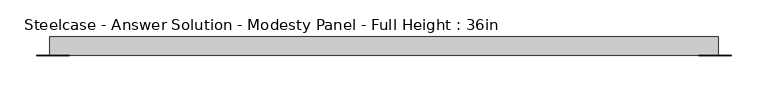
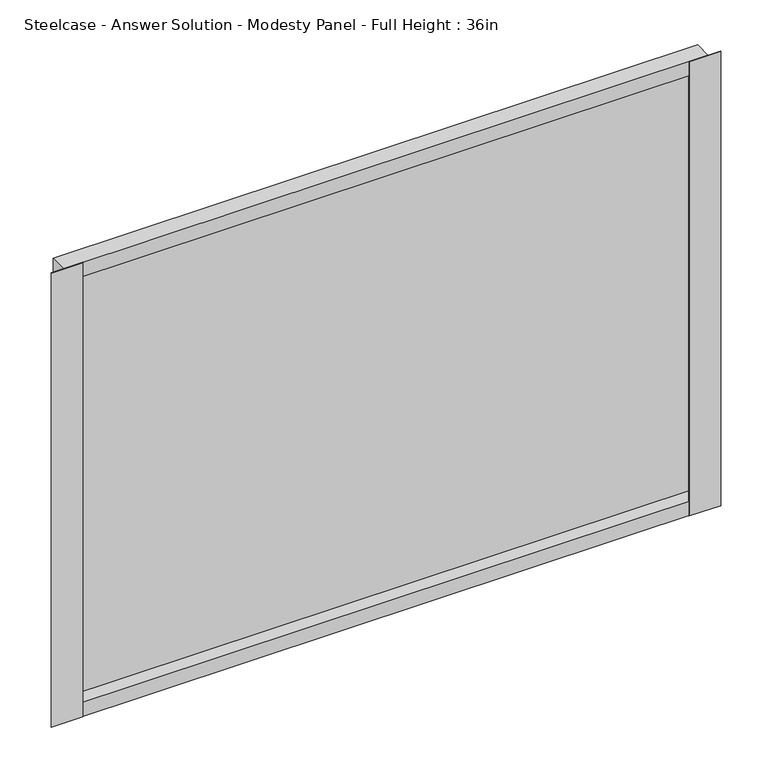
"""IFC4 building model written with IfcOpenShell, lengths in millimetres: furniture geometry, Steelcase - Answer Solution - Modesty Panel - Full Height : 36in."""

import ifcopenshell
import ifcopenshell.guid

model = None  # the IFC model being written
_history = None  # IfcOwnerHistory: only IFC2X3 demands one
_inside = {}  # id of a spatial element -> (the spatial element, [elements in it])
_under = {}  # id of a project, library or spatial element -> (it, [spatial elements below it])
_declared = {}  # id of a project -> (the project, [libraries it declares])
_typed = {}  # id of a type object -> (the type object, [elements of that type])
_made_of = {}  # id of a material, layer set ... -> (it, [elements and type objects made of it])


def new_model(schema):
    """Start an empty IFC model of exactly this schema.

    Asked for "IFC4X3", IfcOpenShell would pick the latest addendum, in which some entities
    have other attributes; the version numbers below select the first issue.
    IFC2X3 requires an IfcOwnerHistory on every rooted entity: one is made here for all.
    """
    global model, _history
    if schema == "IFC4X3":
        model = ifcopenshell.file(schema_version=(4, 3, 0, 0))
    else:
        model = ifcopenshell.file(schema=schema)
    _inside.clear()
    _under.clear()
    _declared.clear()
    _typed.clear()
    _made_of.clear()
    _history = None
    if model.schema == "IFC2X3":
        org = make("IfcOrganization", Name="unknown")
        user = make(
            "IfcPersonAndOrganization",
            ThePerson=make("IfcPerson", FamilyName="unknown"),
            TheOrganization=org,
        )
        app = make(
            "IfcApplication",
            ApplicationDeveloper=org,
            Version="unknown",
            ApplicationFullName="unknown",
            ApplicationIdentifier="unknown",
        )
        _history = make(
            "IfcOwnerHistory",
            OwningUser=user,
            OwningApplication=app,
            ChangeAction="ADDED",
            CreationDate=0,
        )
    return model


def make(cls, **values):
    """One entity of the class cls with the attributes given. An attribute that is None is left unset."""
    return model.create_entity(
        cls, **{name: value for name, value in values.items() if value is not None}
    )


def rooted(cls, **values):
    """An entity with a GlobalId (a new one), such as an element, a storey or a relation."""
    return make(cls, GlobalId=ifcopenshell.guid.new(), OwnerHistory=_history, **values)


def si_unit(unit_type, name, prefix=None):
    """IfcSIUnit, for example si_unit("LENGTHUNIT", "METRE", prefix="MILLI")."""
    return make("IfcSIUnit", UnitType=unit_type, Prefix=prefix, Name=name)


def assignment(units):
    """IfcUnitAssignment: the units of a project."""
    return None if units is None else make("IfcUnitAssignment", Units=units)


def point(xyz):
    """IfcCartesianPoint."""
    return None if xyz is None else make("IfcCartesianPoint", Coordinates=xyz)


def direction(xyz):
    """IfcDirection."""
    return None if xyz is None else make("IfcDirection", DirectionRatios=xyz)


def frame(location, z_axis=None, x_axis=None):
    """IfcAxis2Placement3D, a coordinate frame: its origin and axes. An axis left out is left unset."""
    return make(
        "IfcAxis2Placement3D",
        Location=point(location),
        Axis=direction(z_axis),
        RefDirection=direction(x_axis),
    )


def origin():
    """The frame at (0, 0, 0) with its axes left unset."""
    return frame((0.0, 0.0, 0.0))


def place(relative_to, where):
    """IfcLocalPlacement: puts the frame where relative to a parent placement (None: the world)."""
    return make(
        "IfcLocalPlacement", PlacementRelTo=relative_to, RelativePlacement=where
    )


def context(
    kind, dimensions, precision=None, world=None, true_north=None, identifier=None
):
    """IfcGeometricRepresentationContext, for example the 3D "Model" context."""
    return make(
        "IfcGeometricRepresentationContext",
        ContextIdentifier=identifier,
        ContextType=kind,
        CoordinateSpaceDimension=dimensions,
        Precision=precision,
        WorldCoordinateSystem=world,
        TrueNorth=true_north,
    )


def project(units=None, contexts=None):
    """IfcProject with its units and contexts."""
    return rooted(
        "IfcProject",
        Name="project",
        RepresentationContexts=contexts,
        UnitsInContext=assignment(units),
    )


def spatial(cls, under=None, at=None, **own):
    """A site, building, storey or space (cls), placed at a placement, below another one or the project."""
    s = rooted(cls, ObjectPlacement=at, **own)
    if under is not None:
        _under.setdefault(under.id(), (under, []))[1].append(s)
    return s


def polyline(points):
    """IfcPolyline through the points."""
    return make("IfcPolyline", Points=[point(p) for p in points])


def outline(outer, holes=None, kind="AREA"):
    """IfcArbitraryClosedProfileDef: a profile drawn as a closed curve; with holes, ...WithVoids."""
    if holes is None:
        return make("IfcArbitraryClosedProfileDef", ProfileType=kind, OuterCurve=outer)
    return make(
        "IfcArbitraryProfileDefWithVoids",
        ProfileType=kind,
        OuterCurve=outer,
        InnerCurves=holes,
    )


def extrude(swept, where, along, depth):
    """IfcExtrudedAreaSolid: the profile swept, set in the frame where, extruded along a direction by depth."""
    return make(
        "IfcExtrudedAreaSolid",
        SweptArea=swept,
        Position=where,
        ExtrudedDirection=direction(along),
        Depth=depth,
    )


def faces_of(points, faces, orient=None, outer=None):
    """IfcFace entities. A face is a list of loops; a loop is a list of indices into points, from 0.

    orient and outer hold one flag for each loop. By default every Orientation is true, the
    first loop of a face is its IfcFaceOuterBound and the others are IfcFaceBound.
    """
    made = []
    for i, loops in enumerate(faces):
        bounds = []
        for j, loop in enumerate(loops):
            is_outer = j == 0 if outer is None else outer[i][j]
            bounds.append(
                make(
                    "IfcFaceOuterBound" if is_outer else "IfcFaceBound",
                    Bound=make("IfcPolyLoop", Polygon=[points[k] for k in loop]),
                    Orientation=True if orient is None else orient[i][j],
                )
            )
        made.append(make("IfcFace", Bounds=bounds))
    return made


def faceted_brep(points, faces, orient=None, outer=None, voids=None):
    """IfcFacetedBrep: a solid bounded by flat faces; with voids (closed shells), ...WithVoids."""
    shared = [point(p) for p in points]
    hull = make("IfcClosedShell", CfsFaces=faces_of(shared, faces, orient, outer))
    if voids is None:
        return make("IfcFacetedBrep", Outer=hull)
    return make(
        "IfcFacetedBrepWithVoids",
        Outer=hull,
        Voids=[
            make(cls, CfsFaces=faces_of(shared, fs, o, b)) for cls, fs, o, b in voids
        ],
    )


def shape(context_of_items, identifier, shape_type, items):
    """IfcShapeRepresentation: the items that make up one representation, for example the "Body"."""
    return make(
        "IfcShapeRepresentation",
        ContextOfItems=context_of_items,
        RepresentationIdentifier=identifier,
        RepresentationType=shape_type,
        Items=items,
    )


def source(mapping_origin, context_of_items, identifier, shape_type, items):
    """IfcRepresentationMap: a shape defined once, which mapped items show again and again."""
    return make(
        "IfcRepresentationMap",
        MappingOrigin=mapping_origin,
        MappedRepresentation=shape(context_of_items, identifier, shape_type, items),
    )


def transform(
    local_origin,
    x_axis=None,
    y_axis=None,
    z_axis=None,
    scale=None,
    scale2=None,
    scale3=None,
    uniform=True,
):
    """IfcCartesianTransformationOperator3D, or its non-uniform kind. x_axis, y_axis, z_axis: its Axis1, 2, 3."""
    if uniform:
        return make(
            "IfcCartesianTransformationOperator3D",
            Axis1=direction(x_axis),
            Axis2=direction(y_axis),
            LocalOrigin=point(local_origin),
            Scale=scale,
            Axis3=direction(z_axis),
        )
    return make(
        "IfcCartesianTransformationOperator3DnonUniform",
        Axis1=direction(x_axis),
        Axis2=direction(y_axis),
        LocalOrigin=point(local_origin),
        Scale=scale,
        Axis3=direction(z_axis),
        Scale2=scale2,
        Scale3=scale3,
    )


def mapped(mapping_source, mapping_target):
    """IfcMappedItem: shows the shape of a source again, moved by a transform."""
    return make(
        "IfcMappedItem", MappingSource=mapping_source, MappingTarget=mapping_target
    )


def made_of(thing, what):
    """Note that an element or type object is made of a material, layer set ...; save() writes the relation."""
    if what is not None:
        _made_of.setdefault(what.id(), (what, []))[1].append(thing)
    return thing


def element(
    cls,
    number,
    at=None,
    inside=None,
    cuts=None,
    type_object=None,
    material=None,
    context=None,
    identifier="Body",
    shape_type=None,
    held_by="IfcProductDefinitionShape",
    body=None,
    shapes=None,
    **own,
):
    """One element of the class cls, such as IfcWall. Its Tag is "e" and its number.

    at: its placement. inside: the storey or other place that contains it. cuts: it is an
    opening in that element (IfcRelVoidsElement). A single representation is given by context,
    identifier, shape_type and body (its items); several are given by shapes. held_by: the class
    of the entity that holds the representations. save() writes the other relations.
    """
    e = rooted(cls, Tag="e%d" % number, ObjectPlacement=at, **own)
    if body is not None:
        shapes = [shape(context, identifier, shape_type, body)]
    if shapes is not None:
        e.Representation = make(held_by, Representations=shapes)
    if inside is not None:
        _inside.setdefault(inside.id(), (inside, []))[1].append(e)
    if cuts is not None:
        rooted(
            "IfcRelVoidsElement", RelatingBuildingElement=cuts, RelatedOpeningElement=e
        )
    if type_object is not None:
        _typed.setdefault(type_object.id(), (type_object, []))[1].append(e)
    return made_of(e, material)


def aggregate(whole, parts):
    """IfcRelAggregates: a whole, such as a stair, and the parts it consists of."""
    return rooted("IfcRelAggregates", RelatingObject=whole, RelatedObjects=parts)


def save(model, path):
    """Write the relations noted so far, then the file.

    IfcRelAggregates (storeys below a building ...), IfcRelContainedInSpatialStructure (elements
    in a storey), IfcRelDefinesByType, IfcRelAssociatesMaterial and IfcRelDeclares: one each for
    every whole, place, type object, material and project.
    """
    for whole, parts in _under.values():
        aggregate(whole, parts)
    for where, things in _inside.values():
        rooted(
            "IfcRelContainedInSpatialStructure",
            RelatedElements=things,
            RelatingStructure=where,
        )
    for kind, things in _typed.values():
        rooted("IfcRelDefinesByType", RelatedObjects=things, RelatingType=kind)
    for what, things in _made_of.values():
        rooted("IfcRelAssociatesMaterial", RelatedObjects=things, RelatingMaterial=what)
    for by, libraries in _declared.values():
        rooted("IfcRelDeclares", RelatingContext=by, RelatedDefinitions=libraries)
    model.write(path)


def steelcase_answer_solution_modesty_panel_full_height_36in_a9e87bf2(model_context):
    return source(origin(), model_context, "Body", "SolidModel", [
        extrude(outline(polyline([(1457.9400478, -14.2668826), (1457.9400478, -15.0593624), (1413.5248254, -15.0593624), (1413.5248254, -14.2668826), (1457.9400478, -14.2668826)])), frame((0.0, 0.0, 17.653), z_axis=(0.0, 0.0, 1.0), x_axis=(1.0, 0.0, 0.0)), (0.0, 0.0, 1.0), 678.18),
        extrude(outline(polyline([(556.9673392, -14.2668826), (556.9673392, -15.0593624), (512.5520826, -15.0593624), (512.5520826, -14.2668826), (556.9673392, -14.2668826)])), frame((0.0, 0.0, 17.653), z_axis=(0.0, 0.0, 1.0), x_axis=(1.0, 0.0, 0.0)), (0.0, 0.0, 1.0), 678.18),
        faceted_brep([(530.0780827, 10.9045177, 17.653), (530.0780827, -14.2668826, 17.653), (530.0780827, -14.2668826, 695.833), (530.0780827, 10.9045177, 695.833), (1440.4140827, -14.2668826, 17.653), (1440.4140827, 10.9045177, 17.653), (1440.4140827, 10.9045177, 695.833), (1440.4140827, -14.2668826, 695.833), (1439.6216165, 4.7831174, 39.243), (530.8705628, 4.7831174, 39.243), (530.8705628, -14.2668826, 39.243), (1439.6216165, -14.2668826, 39.243), (530.8705628, -14.2668826, 674.243), (1439.6216165, -14.2668826, 674.243), (530.8705628, 4.7831174, 674.243), (1439.6216165, 4.7831174, 674.243)], [[[0, 1, 2, 3]], [[4, 5, 6, 7]], [[8, 9, 10, 11]], [[0, 3, 6, 5]], [[4, 1, 0, 5]], [[2, 1, 4, 7], [10, 12, 13, 11]], [[3, 2, 7, 6]], [[14, 15, 13, 12]], [[9, 8, 15, 14]], [[12, 10, 9, 14]], [[11, 13, 15, 8]]]),
    ])


if __name__ == "__main__":
    model = new_model("IFC4")
    model_context = context("Model", 3, world=origin())
    ifc_project = project(units=[si_unit("LENGTHUNIT", "METRE", prefix="MILLI")], contexts=[model_context])
    site = spatial("IfcSite", under=ifc_project)
    building = spatial("IfcBuilding", under=site)
    placement = place(None, origin())
    steelcase_answer_solution_modesty_panel_full_height_36in_shape = steelcase_answer_solution_modesty_panel_full_height_36in_a9e87bf2(model_context)
    element("IfcFurniture", 1, ObjectType="Steelcase - Answer Solution - Modesty Panel - Full Height : 36in", at=placement, inside=building, context=model_context, shape_type="MappedRepresentation", body=[
        mapped(steelcase_answer_solution_modesty_panel_full_height_36in_shape, transform((0.0, 0.0, 0.0), x_axis=(1.0, 0.0, 0.0), y_axis=(0.0, 1.0, 0.0), z_axis=(0.0, 0.0, 1.0))),
    ])
    save(model, "model.ifc")
